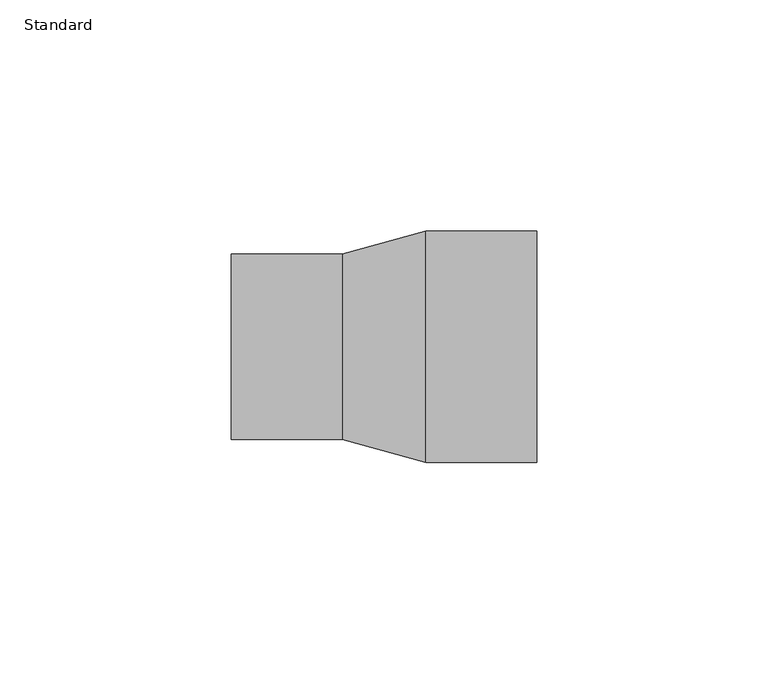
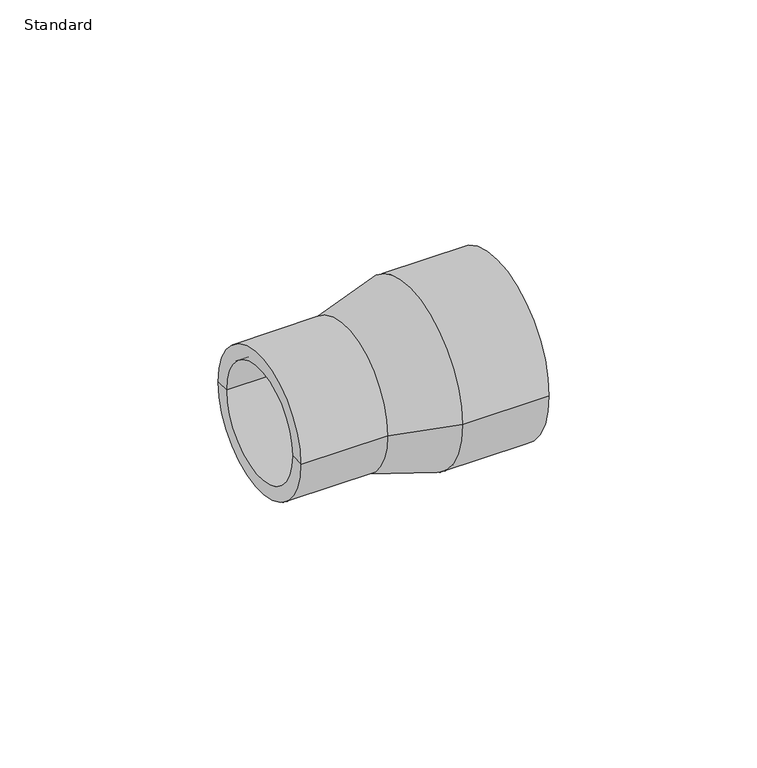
"""IFC4 building model written with IfcOpenShell, lengths in millimetres: pipe fitting geometry, Durapipe_PipeFitting_PVC_Reducers : Standard."""

from ifc_helpers import new_model, si_unit, frame, origin, place, context, project, spatial, polyline, circle_curve, source, transform, mapped, element, save
from ifc_brep_helpers import plane_surface, cylinder_surface, revolved_surface, advanced_brep


def standard_363f8bd0(model_context):
    return source(origin(), model_context, "Body", "AdvancedBrep", [
        advanced_brep(
        [(-33.0, -20.0, 0.0), (-33.0, 20.0, 0.0), (-9.0, 20.0, 0.0), (-9.0, -20.0, 0.0), (-33.0, -16.0, 0.0), (-33.0, 16.0, 0.0), (33.0, -25.0, 0.0), (33.0, 25.0, 0.0), (33.0, 20.0, 0.0), (33.0, -20.0, 0.0), (9.0, -25.0, 0.0), (9.0, 25.0, 0.0), (-9.0, -16.0, 0.0), (-9.0, 16.0, 0.0), (-9.0, 0.0, 0.0), (9.0, -20.0, 0.0), (9.0, 20.0, 0.0), (9.0, 0.0, 0.0)],
        [
            (0, 1, circle_curve(frame((-33.0, 0.0, 0.0), z_axis=(1.0, 0.0, 0.0), x_axis=(0.0, 1.0, 0.0)), 20.0)),
            (1, 2),
            (2, 3, circle_curve(frame((-9.0, 0.0, 0.0), z_axis=(-1.0, 0.0, 0.0), x_axis=(0.0, 1.0, 0.0)), 20.0)),
            (3, 0),
            (1, 0, circle_curve(frame((-33.0, 0.0, 0.0), z_axis=(1.0, 0.0, 0.0), x_axis=(0.0, 1.0, 0.0)), 20.0)),
            (3, 2, circle_curve(frame((-9.0, 0.0, 0.0), z_axis=(-1.0, 0.0, 0.0), x_axis=(0.0, 1.0, 0.0)), 20.0)),
            (4, 5, circle_curve(frame((-33.0, 0.0, 0.0), z_axis=(1.0, 0.0, 0.0), x_axis=(0.0, 1.0, 0.0)), 16.0)),
            (5, 1),
            (0, 4),
            (5, 4, circle_curve(frame((-33.0, 0.0, 0.0), z_axis=(1.0, 0.0, 0.0), x_axis=(0.0, 1.0, 0.0)), 16.0)),
            (6, 7, circle_curve(frame((33.0, 0.0, 0.0), z_axis=(1.0, 0.0, 0.0), x_axis=(0.0, 1.0, 0.0)), 25.0)),
            (7, 8),
            (8, 9, circle_curve(frame((33.0, 0.0, 0.0), z_axis=(-1.0, 0.0, 0.0), x_axis=(0.0, 1.0, 0.0)), 20.0)),
            (9, 6),
            (7, 6, circle_curve(frame((33.0, 0.0, 0.0), z_axis=(1.0, 0.0, 0.0), x_axis=(0.0, 1.0, 0.0)), 25.0)),
            (9, 8, circle_curve(frame((33.0, 0.0, 0.0), z_axis=(-1.0, 0.0, 0.0), x_axis=(0.0, 1.0, 0.0)), 20.0)),
            (10, 11, circle_curve(frame((9.0, 0.0, 0.0), z_axis=(1.0, 0.0, 0.0), x_axis=(0.0, 1.0, 0.0)), 25.0)),
            (11, 7),
            (6, 10),
            (11, 10, circle_curve(frame((9.0, 0.0, 0.0), z_axis=(1.0, 0.0, 0.0), x_axis=(0.0, 1.0, 0.0)), 25.0)),
            (2, 11),
            (10, 3),
            (12, 13, circle_curve(frame((-9.0, 0.0, 0.0), z_axis=(1.0, 0.0, 0.0), x_axis=(0.0, 1.0, 0.0)), 16.0)),
            (13, 5),
            (4, 12),
            (13, 12, circle_curve(frame((-9.0, 0.0, 0.0), z_axis=(1.0, 0.0, 0.0), x_axis=(0.0, 1.0, 0.0)), 16.0)),
            (14, 13),
            (12, 14),
            (15, 16, circle_curve(frame((9.0, 0.0, 0.0), z_axis=(1.0, 0.0, 0.0), x_axis=(0.0, 1.0, 0.0)), 20.0)),
            (16, 17),
            (17, 15),
            (16, 15, circle_curve(frame((9.0, 0.0, 0.0), z_axis=(1.0, 0.0, 0.0), x_axis=(0.0, 1.0, 0.0)), 20.0)),
            (8, 16),
            (15, 9),
        ],
        [
            cylinder_surface(frame((-33.0, 0.0, 0.0), z_axis=(-1.0, 0.0, 0.0), x_axis=(0.0, 1.0, 0.0)), 20.0),
            plane_surface(frame((-33.0, 0.0, 0.0), z_axis=(-1.0, 0.0, 0.0), x_axis=(0.0, 1.0, 0.0))),
            plane_surface(frame((33.0, 0.0, 0.0), z_axis=(1.0, 0.0, 0.0), x_axis=(0.0, 1.0, 0.0))),
            cylinder_surface(frame((-33.0, 0.0, 0.0), z_axis=(-1.0, 0.0, 0.0), x_axis=(0.0, 1.0, 0.0)), 25.0),
            revolved_surface(polyline([(9.0, 25.0, 0.0), (-9.0, 20.0, 0.0)]), (-33.0, 0.0, 0.0), (-1.0, 0.0, 0.0)),
            revolved_surface(polyline([(-33.0, 16.0, 0.0), (-9.0, 16.0, 0.0)]), (-33.0, 0.0, 0.0), (-1.0, 0.0, 0.0)),
            plane_surface(frame((-9.0, 0.0, 0.0), z_axis=(-1.0, 0.0, 0.0), x_axis=(0.0, 1.0, 0.0))),
            plane_surface(frame((9.0, 0.0, 0.0), z_axis=(1.0, 0.0, 0.0), x_axis=(0.0, 1.0, 0.0))),
            revolved_surface(polyline([(9.0, 20.0, 0.0), (33.0, 20.0, 0.0)]), (-33.0, 0.0, 0.0), (-1.0, 0.0, 0.0)),
        ],
        [
            (0, [[1, 2, 3, 4]]),
            (0, [[5, -4, 6, -2]]),
            (1, [[7, 8, -1, 9]]),
            (1, [[10, -9, -5, -8]]),
            (2, [[11, 12, 13, 14]]),
            (2, [[15, -14, 16, -12]]),
            (3, [[17, 18, -11, 19]]),
            (3, [[20, -19, -15, -18]]),
            (4, [[-3, 21, -17, 22]]),
            (4, [[-6, -22, -20, -21]]),
            (5, [[23, 24, -7, 25]]),
            (5, [[26, -25, -10, -24]]),
            (6, [[27, -23, 28]]),
            (6, [[-28, -26, -27]]),
            (7, [[29, 30, 31]]),
            (7, [[32, -31, -30]]),
            (8, [[-13, 33, -29, 34]]),
            (8, [[-16, -34, -32, -33]]),
        ],
    ),
    ])


if __name__ == "__main__":
    model = new_model("IFC4")
    model_context = context("Model", 3, world=origin())
    ifc_project = project(units=[si_unit("LENGTHUNIT", "METRE", prefix="MILLI")], contexts=[model_context])
    site = spatial("IfcSite", under=ifc_project)
    building = spatial("IfcBuilding", under=site)
    placement = place(None, origin())
    standard_shape = standard_363f8bd0(model_context)
    element("IfcPipeFitting", 1, ObjectType="Durapipe_PipeFitting_PVC_Reducers : Standard", at=placement, inside=building, context=model_context, shape_type="MappedRepresentation", body=[
        mapped(standard_shape, transform((0.0, 0.0, 0.0), x_axis=(1.0, 0.0, 0.0), y_axis=(0.0, 1.0, 0.0), z_axis=(0.0, 0.0, 1.0))),
    ])
    save(model, "model.ifc")
